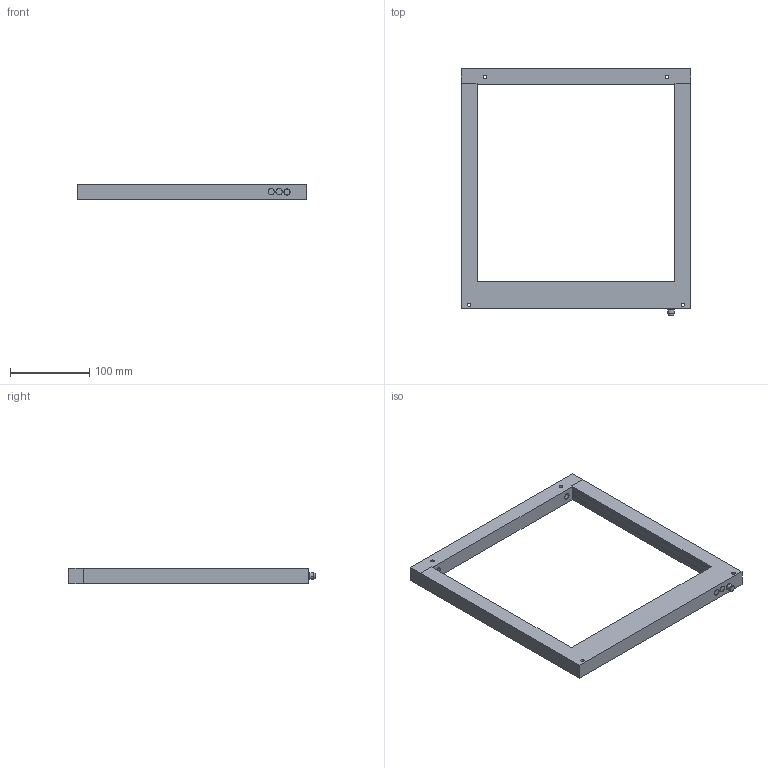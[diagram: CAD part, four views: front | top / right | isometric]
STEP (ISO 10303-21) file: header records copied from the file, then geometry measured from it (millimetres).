
FILE_DESCRIPTION(('STEP AP214'),'1');
FILE_NAME('W:/Zeichnungen/3D Modelle homepage/tmp0.step','2014-11-27T15:17:37',(' '),(' '),'Spatial InterOp 3D',' ',' ');
FILE_SCHEMA(('automotive_design'));
Length unit declared in the file: millimetre
Products named in the file (2): 3; 1
Bounding box: 290 x 311 x 20 mm (x, y, z)
Volume: 511129.3 mm3; surface area: 99344.1 mm2
Topology: 2 solids, 2 shells, 91 faces, 220 edges, 136 vertices
Faces by surface type: cylinder 42, plane 41, cone 8
Entity records: 3449 total; most frequent: DIRECTION 490, CARTESIAN_POINT 449, ORIENTED_EDGE 440, EDGE_CURVE 220, AXIS2_PLACEMENT_3D 177, VERTEX_POINT 136, LINE 136, VECTOR 136
